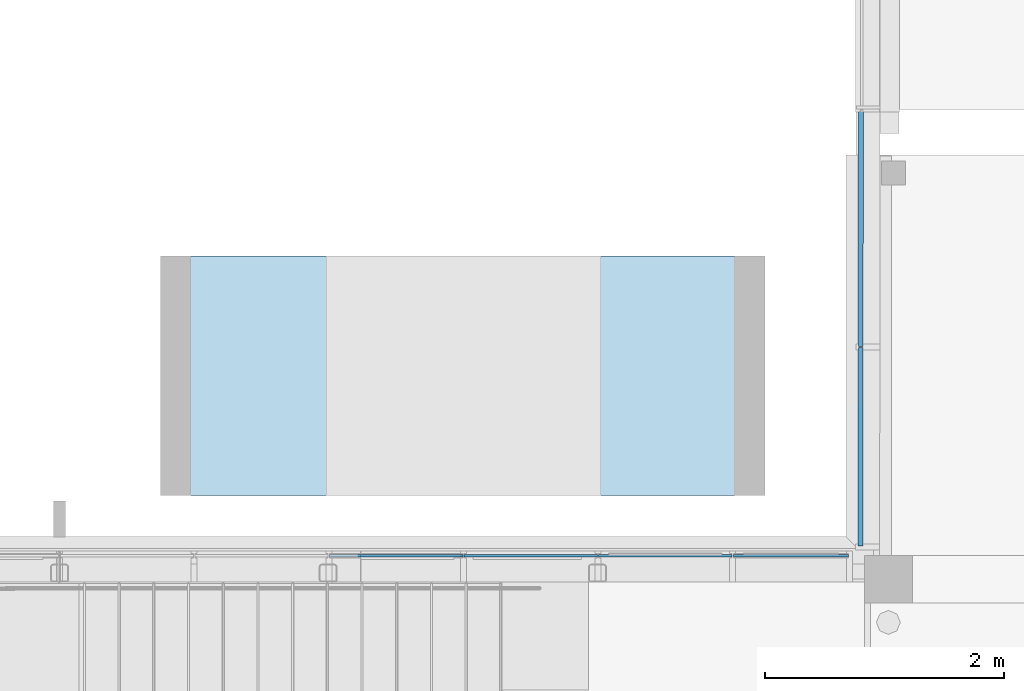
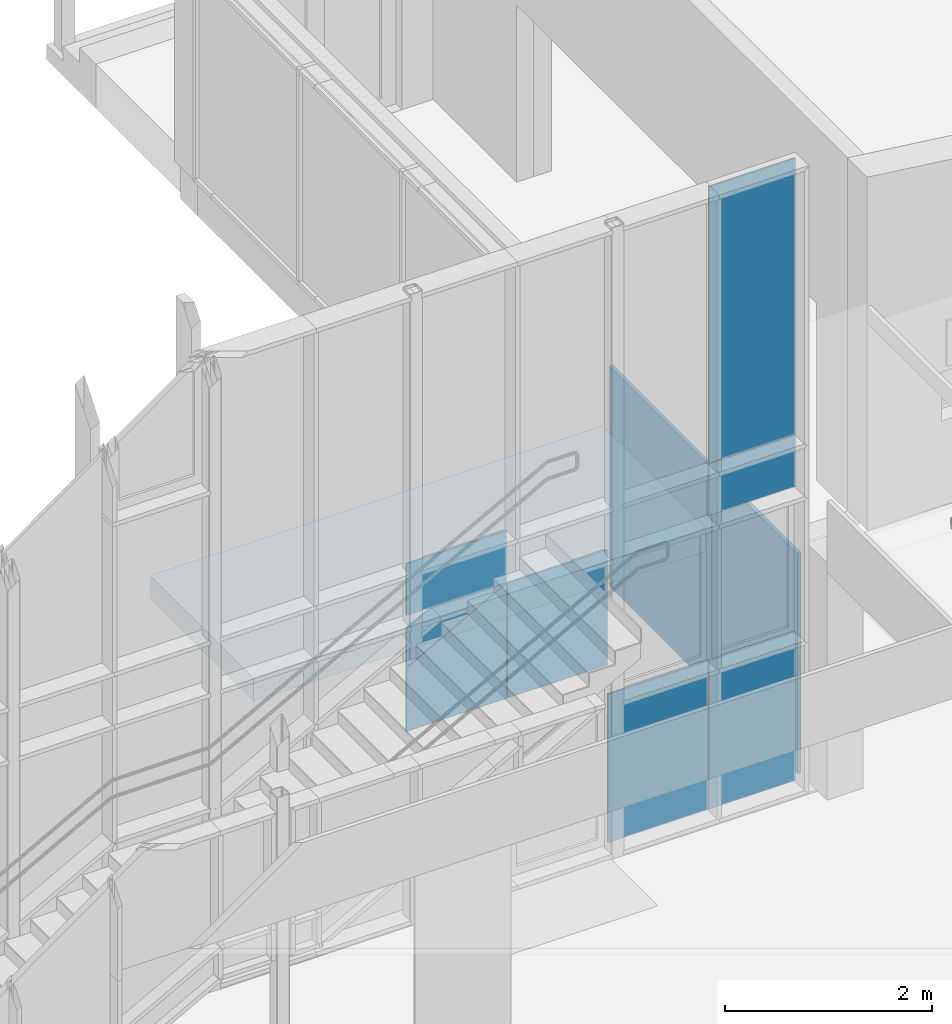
# One storey, part 75 of 301: 10 plates, 1 slab, 2 elements without a shape of their own.
"""IFC2X3 building model written with IfcOpenShell, lengths in millimetres."""

from ifc_helpers import new_model, entity, si_unit, converted_unit, derived_unit, money_unit, direction, frame, origin_with_axes, place, context, subcontext, project, spatial, faceted_brep, material, type_object, element, aggregate, save


model = new_model("IFC2X3")

# Units and contexts
model_context = context("Model", 3, precision=0.01, world=origin_with_axes(), true_north=direction((0.0, 1.0)))
body_context = subcontext(model_context, "Body", "Model", "MODEL_VIEW")
ifc_project = project(units=[si_unit("LENGTHUNIT", "METRE", prefix="MILLI"), si_unit("AREAUNIT", "SQUARE_METRE"), si_unit("VOLUMEUNIT", "CUBIC_METRE"), converted_unit("PLANEANGLEUNIT", "DEGREE", entity("IfcPlaneAngleMeasure", 0.0174532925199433), si_unit("PLANEANGLEUNIT", "RADIAN"), dimensions=[0, 0, 0, 0, 0, 0, 0]), money_unit("EUR"), converted_unit("TIMEUNIT", "Year", entity("IfcTimeMeasure", 31557600.0), si_unit("TIMEUNIT", "SECOND"), dimensions=[0, 0, 1, 0, 0, 0, 0]), si_unit("MASSUNIT", "GRAM", prefix="KILO"), si_unit("THERMODYNAMICTEMPERATUREUNIT", "DEGREE_CELSIUS"), si_unit("LUMINOUSINTENSITYUNIT", "LUMEN"), si_unit("ENERGYUNIT", "JOULE", prefix="MEGA"), derived_unit("THERMALCONDUCTANCEUNIT", [(si_unit("POWERUNIT", "WATT"), 1), (si_unit("LENGTHUNIT", "METRE"), -1), (si_unit("THERMODYNAMICTEMPERATUREUNIT", "KELVIN"), -1)]), derived_unit("SPECIFICHEATCAPACITYUNIT", [(si_unit("ENERGYUNIT", "JOULE"), 1), (si_unit("MASSUNIT", "GRAM", prefix="KILO"), -1), (si_unit("THERMODYNAMICTEMPERATUREUNIT", "KELVIN"), -1)]), derived_unit("MASSDENSITYUNIT", [(si_unit("MASSUNIT", "GRAM", prefix="KILO"), 1), (si_unit("VOLUMEUNIT", "CUBIC_METRE"), -1)])], contexts=[model_context])

# Site, building, storey
site_placement = place(None, frame((0.0, 0.0, 8650.0), z_axis=(0.0, 0.0, 1.0), x_axis=(1.0, 0.0, 0.0)))
site = spatial("IfcSite", under=ifc_project, at=site_placement, Name="43301:001:0844", CompositionType="ELEMENT")
building_placement = place(site_placement, origin_with_axes())
building = spatial("IfcBuilding", under=site, at=building_placement, Name="Kuressaare Ametikooli tuulikute mehaanikute õppekorpus", CompositionType="ELEMENT")
storey_placement = place(building_placement, origin_with_axes())
storey = spatial("IfcBuildingStorey", under=building, at=storey_placement, Name="1.korrus", CompositionType="ELEMENT", Elevation=0.0)

# Curtain wall, plates
curtain_wall_type = type_object("IfcCurtainWallType", Name="Curtain Wall Type", PredefinedType="NOTDEFINED")
curtain_wall_1_placement = place(storey_placement, frame((116704.6026822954, 28579.57374875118, 35.00000000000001), z_axis=(0.0, 0.0, 1.0), x_axis=(1.0, 0.0, 0.0)))
curtain_wall_1 = element("IfcCurtainWall", 1, at=curtain_wall_1_placement, inside=storey, type_object=curtain_wall_type, Name="KF-1.1")
ifc_material_1 = material(Name="Klaas")
plate_type_1 = type_object("IfcPlateType", Name="Main Panel 1115 x 1755 x 20", PredefinedType="NOTDEFINED")
plate_1_placement = place(curtain_wall_1_placement, frame((0.0, 0.0, 882.5000012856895), z_axis=(0.0, 0.0, 1.0), x_axis=(-1.0, 0.0, 0.0)))
plate_1 = element("IfcPlate", 2, at=plate_1_placement, type_object=plate_type_1, material=ifc_material_1, context=body_context, shape_type="Brep", body=[
    faceted_brep([(-557.5000053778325, 10.00000000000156, 877.500003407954), (-557.5000053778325, -10.00000000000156, 877.500003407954), (557.4999977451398, -10.00000000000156, 877.500003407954), (557.4999977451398, 10.00000000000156, 877.500003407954), (-557.5000053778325, 10.00000000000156, -877.4999990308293), (-557.5000053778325, -10.00000000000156, -877.4999990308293), (557.4999977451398, -10.00000000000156, -877.4999990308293), (557.4999977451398, 10.00000000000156, -877.4999990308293)], [[[0, 1, 2, 3]], [[4, 5, 1, 0]], [[1, 5, 6, 2]], [[3, 2, 6, 7]], [[0, 3, 7, 4]], [[7, 6, 5, 4]]]),
])
plate_type_2 = type_object("IfcPlateType", Name="Main Panel 1115 x 1340 x 20", PredefinedType="NOTDEFINED")
plate_2_placement = place(curtain_wall_1_placement, frame((-1125.0, 0.0, 2594.166644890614), z_axis=(0.0, 0.0, 1.0), x_axis=(-1.0, 0.0, 0.0)))
plate_2 = element("IfcPlate", 3, at=plate_2_placement, type_object=plate_type_2, material=ifc_material_1, context=body_context, shape_type="Brep", body=[
    faceted_brep([(-557.5000069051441, 10.00000000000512, 870.8333553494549), (-557.5000069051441, -9.99999999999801, 870.8333553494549), (557.4999922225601, -9.99999999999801, 870.8333553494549), (557.4999922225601, 10.00000000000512, 870.8333553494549), (-557.5000069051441, 10.00000000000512, -294.1666603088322), (-557.5000069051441, -9.99999999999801, -294.1666603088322), (-557.5000069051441, -9.99999999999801, -489.1666778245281), (562.5, -9.99999999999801, -489.1666778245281), (562.5, -9.99999999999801, -469.1666875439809), (557.4999922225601, -9.99999999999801, -469.1666875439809), (557.4999922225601, 10.00000000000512, -469.1666875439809), (562.5, 10.00000000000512, -469.1666875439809), (562.5, 10.00000000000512, -489.1666778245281), (-557.5000069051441, 10.00000000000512, -489.1666778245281)], [[[0, 1, 2, 3]], [[4, 5, 1, 0]], [[1, 5, 6, 7, 8, 9, 2]], [[3, 2, 9, 10]], [[0, 3, 10, 11, 12, 13, 4]], [[13, 6, 5, 4]], [[12, 7, 6, 13]], [[11, 8, 7, 12]], [[10, 9, 8, 11]]]),
])
plate_type_3 = type_object("IfcPlateType", Name="Main Panel 1120 x 750 x 20", PredefinedType="NOTDEFINED")
plate_3_placement = place(curtain_wall_1_placement, frame((-2137.500000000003, 0.0, 2530.688510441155), z_axis=(0.0, 0.0, 1.0), x_axis=(-1.0, 0.0, 0.0)))
plate_3 = element("IfcPlate", 4, at=plate_3_placement, type_object=plate_type_3, material=ifc_material_1, context=body_context, shape_type="Brep", body=[
    faceted_brep([(-445.000006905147, 10.00000000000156, 930.9024334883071), (-445.000006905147, -10.00000000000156, 930.9024334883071), (669.9999922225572, -10.00000000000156, 324.7811793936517), (669.9999922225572, 10.00000000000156, 324.7811793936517), (-445.000006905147, 10.00000000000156, -405.6885530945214), (-445.000006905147, -10.00000000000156, -405.6885530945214), (-449.9999942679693, -10.00000000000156, -405.6885530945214), (-449.9999942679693, -10.00000000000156, -425.6885433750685), (669.9999922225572, -10.00000000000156, -425.6885433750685), (669.9999922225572, 10.00000000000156, -425.6885433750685), (-449.9999942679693, 10.00000000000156, -425.6885433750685), (-449.9999942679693, 10.00000000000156, -405.6885530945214)], [[[0, 1, 2, 3]], [[4, 5, 1, 0]], [[1, 5, 6, 7, 8, 2]], [[3, 2, 8, 9]], [[0, 3, 9, 10, 11, 4]], [[11, 6, 5, 4]], [[10, 7, 6, 11]], [[9, 8, 7, 10]]]),
])
ifc_material_2 = material(Name="Aluminium")
plate_type_4 = type_object("IfcPlateType", Name="841 x 457 x 20", PredefinedType="NOTDEFINED")
plate_4_placement = place(curtain_wall_1_placement, frame((-2465.456818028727, 0.0, 3281.34506800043), z_axis=(0.0, 0.0, 1.0), x_axis=(-1.0, 0.0, 0.0)))
plate_4 = element("IfcPlate", 5, at=plate_4_placement, type_object=plate_type_4, material=ifc_material_2, context=body_context, shape_type="Brep", body=[
    faceted_brep([(-758.289954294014, 10.00000000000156, 183.6549350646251), (-758.289954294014, -10.00000000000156, 183.6549350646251), (82.59928266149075, -10.00000000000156, 183.6549350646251), (82.59928266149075, 10.00000000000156, 183.6549350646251), (342.0431875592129, 10.00000000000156, -414.4933498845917), (342.0431875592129, -10.00000000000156, -414.4933498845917), (342.0431875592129, -10.00000000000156, 42.61953993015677), (342.0431875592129, 10.00000000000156, 42.61953993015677)], [[[0, 1, 2, 3]], [[4, 5, 1, 0]], [[1, 5, 6, 2]], [[3, 2, 6, 7]], [[0, 3, 7, 4]], [[7, 6, 5, 4]]]),
])
plate_type_5 = type_object("IfcPlateType", Name="1115 x 610 x 20", PredefinedType="NOTDEFINED")
plate_5_placement = place(curtain_wall_1_placement, frame((-2309.865454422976, 0.0, 3718.000004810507), z_axis=(0.0, 0.0, 1.0), x_axis=(-1.0, 0.0, 0.0)))
plate_5 = element("IfcPlate", 6, at=plate_5_placement, type_object=plate_type_5, material=ifc_material_2, context=body_context, shape_type="Brep", body=[
    faceted_brep([(-617.365460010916, 9.99999999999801, 367.0000032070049), (-617.365460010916, -10.00000000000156, 367.0000032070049), (497.634551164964, -10.00000000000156, 367.0000032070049), (497.634551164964, 9.99999999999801, 367.0000032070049), (-617.365460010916, 9.99999999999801, -243.0000023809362), (-617.365460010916, -10.00000000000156, -243.0000023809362), (239.4618133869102, -10.00000000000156, -243.0000023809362), (497.634551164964, -10.00000000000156, -243.0000023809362), (497.634551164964, 9.99999999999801, -243.0000023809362), (239.4618133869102, 9.99999999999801, -243.0000023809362)], [[[0, 1, 2, 3]], [[4, 5, 1, 0]], [[1, 5, 6, 7, 2]], [[3, 2, 7, 8]], [[0, 3, 8, 9, 4]], [[9, 6, 5, 4]], [[8, 7, 6, 9]]]),
])
plate_type_6 = type_object("IfcPlateType", Name="Main Panel 964 x 3260 x 20", PredefinedType="NOTDEFINED")
plate_6_placement = place(curtain_wall_1_placement, frame((1049.709480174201, 0.0, 5724.999978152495), z_axis=(0.0, 0.0, 1.0), x_axis=(-1.0, 0.0, 0.0)))
plate_6 = element("IfcPlate", 7, at=plate_6_placement, type_object=plate_type_6, material=ifc_material_1, context=body_context, shape_type="Brep", body=[
    faceted_brep([(-482.2095523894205, 10.00000000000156, 1629.999981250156), (-482.2095523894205, -10.00000000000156, 1629.999981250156), (482.2094726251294, -10.00000000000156, 1629.999981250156), (482.2094726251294, 10.00000000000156, 1629.999981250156), (-482.2094062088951, 10.00000000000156, -1629.999970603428), (-482.2094062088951, -10.00000000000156, -1629.999970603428), (482.2094726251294, -10.00000000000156, -1629.999970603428), (482.2094726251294, 10.00000000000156, -1629.999970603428)], [[[0, 1, 2, 3]], [[4, 5, 1, 0]], [[1, 5, 6, 2]], [[3, 2, 6, 7]], [[0, 3, 7, 4]], [[7, 6, 5, 4]]]),
])
plate_type_7 = type_object("IfcPlateType", Name="964 x 610 x 20", PredefinedType="NOTDEFINED")
plate_7_placement = place(curtain_wall_1_placement, frame((1049.709432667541, 0.0, 3780.000008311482), z_axis=(0.0, 0.0, 1.0), x_axis=(-1.0, 0.0, 0.0)))
plate_7 = element("IfcPlate", 8, at=plate_7_placement, type_object=plate_type_7, material=ifc_material_2, context=body_context, shape_type="Brep", body=[
    faceted_brep([(-482.2094317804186, 9.99999999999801, 304.9999926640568), (-482.2094317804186, -10.00000000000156, 304.9999926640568), (482.2094317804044, -10.00000000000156, 304.9999926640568), (482.2094317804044, 9.99999999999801, 304.9999926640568), (-482.2094317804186, 9.99999999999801, -304.9999848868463), (-482.2094317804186, -10.00000000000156, -304.9999848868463), (482.2094317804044, -10.00000000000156, -304.9999994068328), (482.2094317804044, 9.99999999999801, -304.9999994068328)], [[[0, 1, 2, 3]], [[4, 5, 1, 0]], [[1, 5, 6, 2]], [[3, 2, 6, 7]], [[0, 3, 7, 4]], [[7, 6, 5, 4]]]),
])
plate_type_8 = type_object("IfcPlateType", Name="Main Panel 964 x 1755 x 20", PredefinedType="NOTDEFINED")
plate_8_placement = place(curtain_wall_1_placement, frame((1049.709432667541, 0.0, 882.5000034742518), z_axis=(0.0, 0.0, 1.0), x_axis=(-1.0, 0.0, 0.0)))
plate_8 = element("IfcPlate", 9, at=plate_8_placement, type_object=plate_type_8, material=ifc_material_1, context=body_context, shape_type="Brep", body=[
    faceted_brep([(-482.2094201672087, 10.00000000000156, 877.5000012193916), (-482.2094201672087, -10.00000000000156, 877.5000012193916), (482.2094304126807, -10.00000000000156, 877.5000012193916), (482.2094304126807, 10.00000000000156, 877.5000012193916), (-482.2094201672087, 10.00000000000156, -877.5000012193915), (-482.2094201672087, -10.00000000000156, -877.5000012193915), (482.2094304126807, -10.00000000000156, -877.5000012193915), (482.2094304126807, 10.00000000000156, -877.5000012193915)], [[[0, 1, 2, 3]], [[4, 5, 1, 0]], [[1, 5, 6, 2]], [[3, 2, 6, 7]], [[0, 3, 7, 4]], [[7, 6, 5, 4]]]),
])
aggregate(curtain_wall_1, [plate_1, plate_2, plate_3, plate_4, plate_5, plate_6, plate_7, plate_8])

curtain_wall_2_placement = place(storey_placement, frame((118335.7921529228, 29489.81776331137, 34.99994345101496), z_axis=(0.0, 0.0, 1.0), x_axis=(1.0, 0.0, 0.0)))
curtain_wall_2 = element("IfcCurtainWall", 10, at=curtain_wall_2_placement, inside=storey, type_object=curtain_wall_type, Name="KF-1.2")
plate_type_9 = type_object("IfcPlateType", Name="Main Panel 1659 x 2600 x 40", PredefinedType="NOTDEFINED")
plate_9_placement = place(curtain_wall_2_placement, frame((0.0, 0.0, 1305.000008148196), z_axis=(0.0, 0.0, 1.0), x_axis=(0.001335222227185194, 0.9999991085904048, 0.0)))
plate_9 = element("IfcPlate", 11, at=plate_9_placement, type_object=plate_type_9, material=ifc_material_1, context=body_context, shape_type="Brep", body=[
    faceted_brep([(-829.559796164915, -19.99999999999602, 1300.000008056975), (829.5598052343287, -19.99999999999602, 1300.000008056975), (829.5598052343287, 20.00000000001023, 1300.000008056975), (-829.559796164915, 20.00000000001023, 1300.000008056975), (-829.559796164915, -19.99999999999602, -1300.000004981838), (829.5598052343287, -19.99999999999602, -1300.000004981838), (829.5598052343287, 20.00000000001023, -1300.000004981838), (-829.559796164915, 20.00000000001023, -1300.000004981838)], [[[0, 1, 2, 3]], [[0, 4, 5, 1]], [[1, 5, 6, 2]], [[3, 2, 6, 7]], [[4, 0, 3, 7]], [[5, 4, 7, 6]]]),
])
plate_type_10 = type_object("IfcPlateType", Name="Main Panel 1980 x 2600 x 40", PredefinedType="NOTDEFINED")
plate_10_placement = place(curtain_wall_2_placement, frame((2.44286892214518, 1829.558177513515, 1305.000006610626), z_axis=(0.0, 0.0, 1.0), x_axis=(0.001335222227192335, 0.9999991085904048, 0.0)))
plate_10 = element("IfcPlate", 12, at=plate_10_placement, type_object=plate_type_10, material=ifc_material_1, context=body_context, shape_type="Brep", body=[
    faceted_brep([(-990.0000078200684, -19.99999999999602, 1300.000003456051), (989.9999968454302, -19.99999999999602, 1300.000003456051), (989.9999968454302, 19.99999999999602, 1300.000003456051), (-990.0000078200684, 19.99999999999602, 1300.000003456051), (-990.0000078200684, -19.99999999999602, -1300.000003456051), (989.9999968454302, -19.99999999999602, -1300.000003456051), (989.9999968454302, 19.99999999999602, -1300.000003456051), (-990.0000078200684, 19.99999999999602, -1300.000003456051)], [[[0, 1, 2, 3]], [[0, 4, 5, 1]], [[1, 5, 6, 2]], [[3, 2, 6, 7]], [[4, 0, 3, 7]], [[5, 4, 7, 6]]]),
])
aggregate(curtain_wall_2, [plate_9, plate_10])

# Slab
ifc_material_3 = material(Name="Air Space - Frame")
slab_type = type_object("IfcSlabType", Name="Air Space - Frame 273", PredefinedType="NOTDEFINED")
slab_placement = place(storey_placement, frame((117536.2884851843, 29084.06892370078, 2680.043183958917), z_axis=(0.0, 0.0, 1.0), x_axis=(1.0, 0.0, 0.0)))
element("IfcSlab", 13, at=slab_placement, inside=storey, type_object=slab_type, material=ifc_material_3, PredefinedType="NOTDEFINED", context=body_context, shape_type="Brep", body=[
    faceted_brep([(0.0, 0.0, 273.0000000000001), (0.0, 0.0, 0.0), (0.0, 2000.0, 0.0), (0.0, 2000.0, 273.0000000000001), (-5050.185802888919, 0.0, 273.0000000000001), (-5050.185802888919, 0.0, 0.0), (-5050.185802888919, 2000.0, 0.0), (-5050.185802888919, 2000.0, 273.0000000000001)], [[[0, 1, 2, 3]], [[4, 5, 1, 0]], [[2, 1, 5, 6]], [[3, 2, 6, 7]], [[4, 0, 3, 7]], [[7, 6, 5, 4]]]),
])

save(model, "model.ifc")
